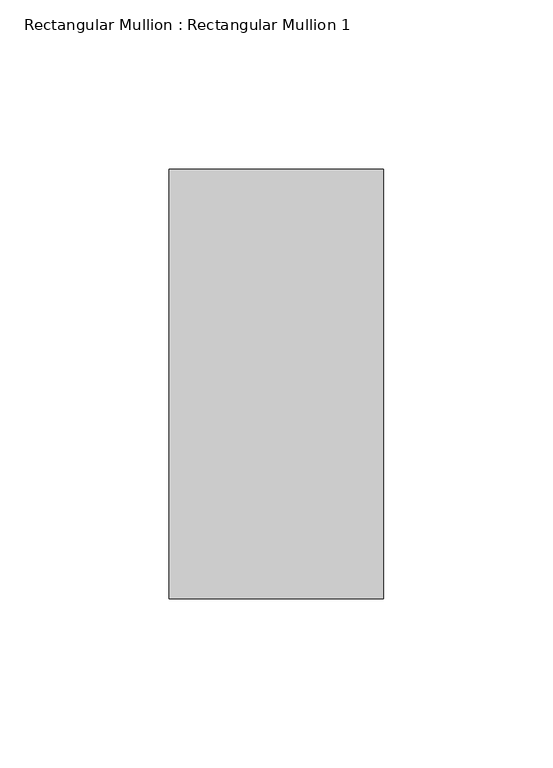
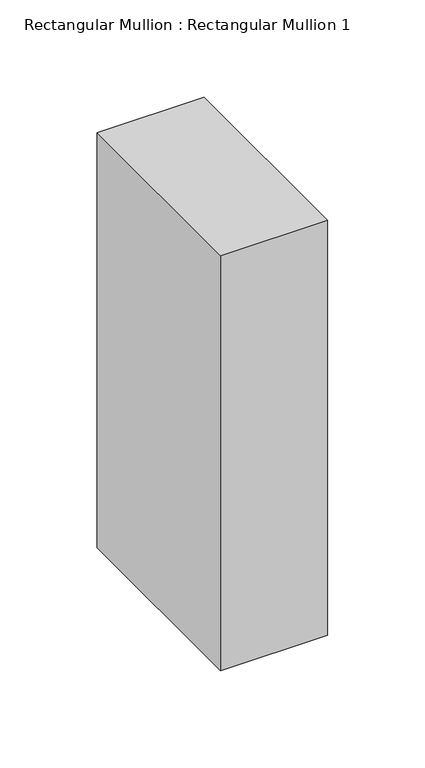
"""IFC4 building model written with IfcOpenShell, lengths in millimetres: member geometry, Rectangular Mullion : Rectangular Mullion 1."""

from ifc_helpers import new_model, si_unit, frame, origin, place, context, project, spatial, polyline, outline, extrude, source, transform, mapped, element, save


def rectangular_mullion_rectangular_mullion_1_4adcbd6e(model_context):
    return source(origin(), model_context, "Body", "SweptSolid", [
        extrude(outline(polyline([(0.0, 63.5), (0.0, -63.5), (-63.5, -63.5), (-63.5, 63.5), (0.0, 63.5)])), frame((0.0, 0.0, -260.35), z_axis=(0.0, 0.0, 1.0), x_axis=(1.0, 0.0, 0.0)), (0.0, 0.0, 1.0), 260.35),
    ])


if __name__ == "__main__":
    model = new_model("IFC4")
    model_context = context("Model", 3, world=origin())
    ifc_project = project(units=[si_unit("LENGTHUNIT", "METRE", prefix="MILLI")], contexts=[model_context])
    site = spatial("IfcSite", under=ifc_project)
    building = spatial("IfcBuilding", under=site)
    placement = place(None, origin())
    rectangular_mullion_rectangular_mullion_1_shape = rectangular_mullion_rectangular_mullion_1_4adcbd6e(model_context)
    element("IfcMember", 1, ObjectType="Rectangular Mullion : Rectangular Mullion 1", at=placement, inside=building, context=model_context, shape_type="MappedRepresentation", body=[
        mapped(rectangular_mullion_rectangular_mullion_1_shape, transform((0.0, 0.0, 0.0), x_axis=(1.0, 0.0, 0.0), y_axis=(0.0, 1.0, 0.0), z_axis=(0.0, 0.0, 1.0))),
    ])
    save(model, "model.ifc")
